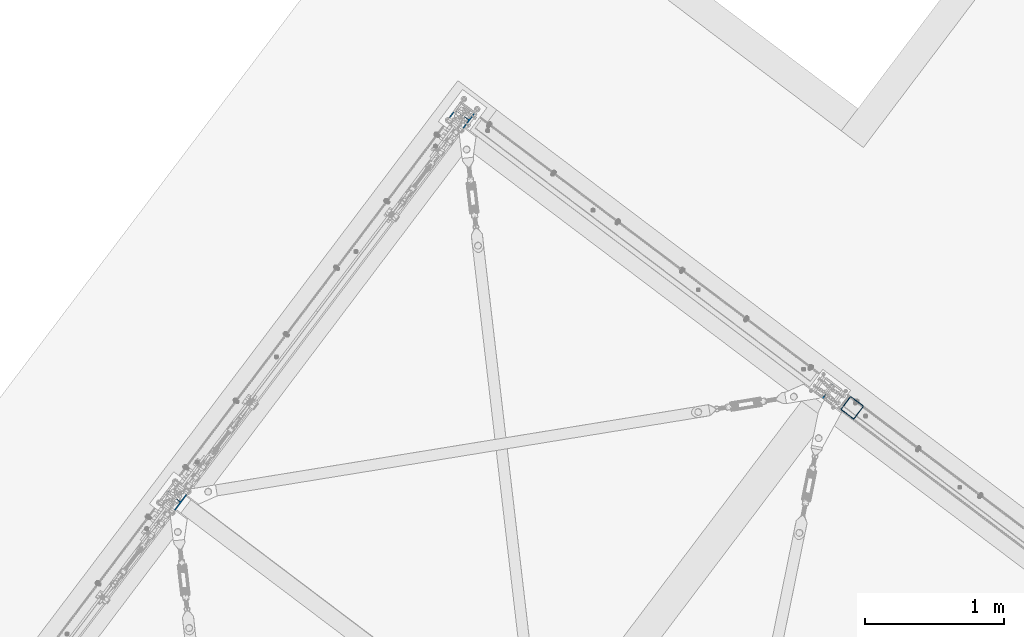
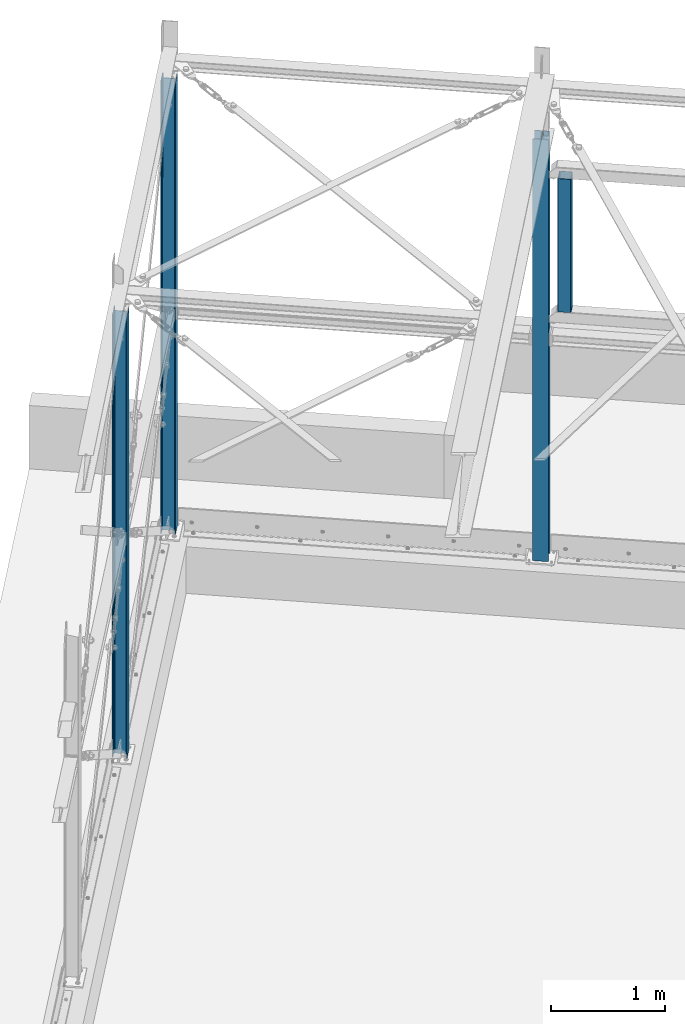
# One storey, part 7 of 476: 4 columns, 2 openings.
"""IFC2X3 building model written with IfcOpenShell, lengths in millimetres."""

from ifc_helpers import new_model, entity, si_unit, converted_unit, frame, origin, origin_with_axes, origin_2d, origin_2d_with_axis, place, context, project, spatial, hollow_rectangle, circle, i_section, extrude, clip, halfspace, material, element, save


model = new_model("IFC2X3")

# Units and contexts
model_context = context("Model", 3, precision=1e-09, world=origin_with_axes())
ifc_project = project(units=[si_unit("LENGTHUNIT", "METRE", prefix="MILLI"), si_unit("AREAUNIT", "SQUARE_METRE"), si_unit("VOLUMEUNIT", "CUBIC_METRE"), converted_unit("PLANEANGLEUNIT", "DEGREE", entity("IfcPlaneAngleMeasure", 0.01745329), si_unit("PLANEANGLEUNIT", "RADIAN"), dimensions=[0, 0, 0, 0, 0, 0, 0])], contexts=[model_context])

# Site, building, storey
site_placement = place(None, origin_with_axes())
site = spatial("IfcSite", under=ifc_project, at=site_placement, Name="mKR Teilneubau & Sanierung BA1 - Ostfildern", CompositionType="ELEMENT")
building_placement = place(site_placement, origin_with_axes())
building = spatial("IfcBuilding", under=site, at=building_placement, Name="Struktur 1", CompositionType="ELEMENT")
storey_placement = place(building_placement, origin_with_axes())
storey = spatial("IfcBuildingStorey", under=building, at=storey_placement, Name="Default Storey", CompositionType="ELEMENT", Elevation=0.0)

# Column
ifc_material = material(Name="S235JR")
column_1_placement = place(None, frame((11196.079485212, 9056.719649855, 403.448200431), z_axis=(0.0, 0.0, 1.0), x_axis=(0.797941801, -0.602734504, 0.0)))
element("IfcColumn", 1, at=column_1_placement, inside=storey, material=ifc_material, Name="-", ObjectType="-", context=model_context, shape_type="Clipping", body=[
    clip(clip(extrude(i_section(OverallWidth=140.0, OverallDepth=133.0, WebThickness=5.5, FlangeThickness=8.5, FilletRadius=12.0, at=origin_2d()), origin(), (0.0, 0.0, 1.0), 5082.024663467), halfspace(frame((-3475.022396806, -13974.998604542, 136.552799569), z_axis=(0.0, 0.0, 1.0), x_axis=(0.797941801, 0.602734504, 0.0)), True)), halfspace(frame((-3475.022396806, -14114.591731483, 4241.062547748), z_axis=(0.0, 0.030041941, -0.999548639), x_axis=(-1.0, 0.0, 0.0)), True)),
])

# Column, openings
column_2_placement = place(None, frame((8560.762005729, 11042.950716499, 403.448200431), z_axis=(0.0, 0.0, 1.0), x_axis=(0.602734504, 0.797941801, 0.0)))
column_2 = element("IfcColumn", 2, at=column_2_placement, inside=storey, material=ifc_material, Name="-", ObjectType="-", context=model_context, shape_type="Clipping", body=[
    clip(clip(extrude(i_section(OverallWidth=140.0, OverallDepth=133.0, WebThickness=5.5, FlangeThickness=8.5, FilletRadius=12.0, at=origin_2d()), origin(), (0.0, 0.0, 1.0), 5315.52920002), halfspace(frame((-13971.498623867, 175.022424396, 141.552799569), z_axis=(0.0, 0.0, 1.0), x_axis=(0.602734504, -0.797941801, 0.0)), True)), halfspace(frame((-14121.005591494, 175.022424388, 4570.91359862), z_axis=(0.030041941, 0.0, -0.999548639), x_axis=(0.0, 1.0, 0.0)), True)),
])
opening_1_placement = place(column_2_placement, frame((-31.499973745, -57.5, 2508.55179957), z_axis=(0.0, -1.0, 0.0), x_axis=(0.0, 0.0, 1.0)))
element("IfcOpeningElement", 3, at=opening_1_placement, cuts=column_2, ObjectType="Opening", context=model_context, shape_type="SweptSolid", body=[
    extrude(circle(Radius=7.001, at=origin_2d_with_axis()), origin(), (0.0, 0.0, 1.0), 9.5),
])
opening_2_placement = place(column_2_placement, frame((38.500026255, -57.5, 2508.55179957), z_axis=(0.0, -1.0, 0.0), x_axis=(1.0, 0.0, 0.0)))
element("IfcOpeningElement", 4, at=opening_2_placement, cuts=column_2, ObjectType="Opening", context=model_context, shape_type="SweptSolid", body=[
    extrude(circle(Radius=7.001, at=origin_2d_with_axis()), origin(), (0.0, 0.0, 1.0), 9.5),
])

# Columns
column_3_placement = place(None, frame((6483.437520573, 8292.84431249, 403.448200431), z_axis=(0.0, 0.0, 1.0), x_axis=(0.602734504, 0.797941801, 0.0)))
element("IfcColumn", 5, at=column_3_placement, inside=storey, material=ifc_material, Name="-", ObjectType="-", context=model_context, shape_type="Clipping", body=[
    clip(clip(extrude(i_section(OverallWidth=140.0, OverallDepth=133.0, WebThickness=5.5, FlangeThickness=8.5, FilletRadius=12.0, at=origin_2d()), origin(), (0.0, 0.0, 1.0), 5211.942893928), halfspace(frame((-10524.998623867, 175.022404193, 141.552799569), z_axis=(0.0, 0.0, 1.0), x_axis=(0.602734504, -0.797941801, 0.0)), True)), halfspace(frame((-10674.505591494, 175.022404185, 4570.913598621), z_axis=(0.030041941, 0.0, -0.999548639), x_axis=(0.0, 1.0, 0.0)), True)),
])
column_4_placement = place(None, frame((11367.565210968, 8935.332299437, 3220.0), z_axis=(0.0, 0.0, -1.0), x_axis=(-0.797941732, 0.602734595, 0.0)))
element("IfcColumn", 6, at=column_4_placement, inside=storey, material=ifc_material, Name="-", ObjectType="-", context=model_context, shape_type="SweptSolid", body=[
    extrude(hollow_rectangle(XDim=120.0, YDim=120.0, WallThickness=4.0, InnerFilletRadius=4.0, OuterFilletRadius=8.0, at=origin_2d()), origin(), (0.0, 0.0, -1.0), 1430.0),
])

save(model, "model.ifc")
